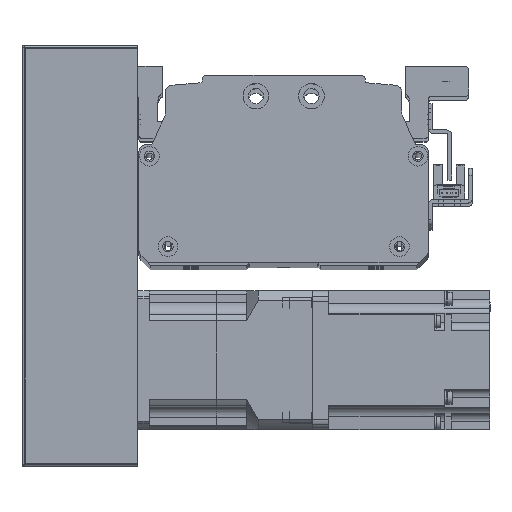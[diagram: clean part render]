
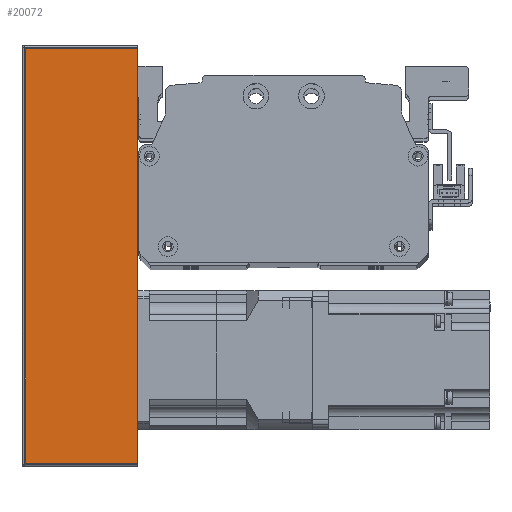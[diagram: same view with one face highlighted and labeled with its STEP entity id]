
A CAD part, top view. The second image highlights one B-rep face of the part: STEP entity #20072.
In plain terms, the highlighted planar face has unit normal (0, 0, 1) as drawn and (0, 1, 0) by its records, which use the part's own axes.
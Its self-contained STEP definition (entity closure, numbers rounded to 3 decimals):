
#609=PLANE('',#22080);
#1812=LINE('',#33089,#3436);
#1829=LINE('',#33143,#3453);
#1834=LINE('',#33167,#3458);
#1853=LINE('',#33230,#3477);
#3436=VECTOR('',#26763,10.);
#3453=VECTOR('',#26816,10.);
#3458=VECTOR('',#26853,10.);
#3477=VECTOR('',#26936,10.);
#5884=FACE_OUTER_BOUND('',#7368,.T.);
#7368=EDGE_LOOP('',(#17339,#17340,#17341,#17342));
#10249=VERTEX_POINT('',#33086);
#10250=VERTEX_POINT('',#33088);
#10268=VERTEX_POINT('',#33140);
#10269=VERTEX_POINT('',#33142);
#12708=EDGE_CURVE('',#10249,#10250,#1812,.T.);
#12736=EDGE_CURVE('',#10268,#10269,#1829,.T.);
#12750=EDGE_CURVE('',#10250,#10268,#1834,.T.);
#12781=EDGE_CURVE('',#10269,#10249,#1853,.T.);
#17339=ORIENTED_EDGE('',*,*,#12736,.F.);
#17340=ORIENTED_EDGE('',*,*,#12750,.F.);
#17341=ORIENTED_EDGE('',*,*,#12708,.F.);
#17342=ORIENTED_EDGE('',*,*,#12781,.F.);
#20072=ADVANCED_FACE('',(#5884),#609,.T.);
#22080=AXIS2_PLACEMENT_3D('',#33229,#26934,#26935);
#26763=DIRECTION('',(-1.,0.,0.));
#26816=DIRECTION('',(1.,0.,0.));
#26853=DIRECTION('',(0.,0.,-1.));
#26934=DIRECTION('center_axis',(0.,1.,0.));
#26935=DIRECTION('ref_axis',(-1.,0.,0.));
#26936=DIRECTION('',(0.,0.,1.));
#33086=CARTESIAN_POINT('',(90.,38.,25.));
#33088=CARTESIAN_POINT('',(-90.,38.,25.));
#33089=CARTESIAN_POINT('',(-91.,38.,25.));
#33140=CARTESIAN_POINT('',(-90.,38.,-24.));
#33142=CARTESIAN_POINT('',(90.,38.,-24.));
#33143=CARTESIAN_POINT('',(45.5,38.,-24.));
#33167=CARTESIAN_POINT('',(-90.,38.,0.));
#33229=CARTESIAN_POINT('Origin',(91.,38.,0.));
#33230=CARTESIAN_POINT('',(90.,38.,0.));
